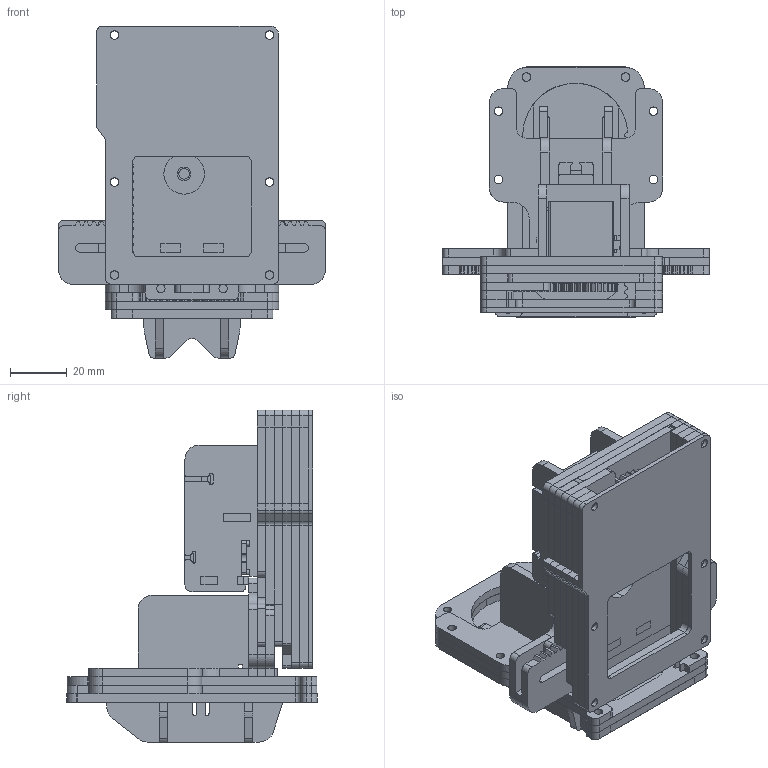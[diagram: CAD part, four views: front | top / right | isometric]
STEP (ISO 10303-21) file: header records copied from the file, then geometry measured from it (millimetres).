
FILE_DESCRIPTION (( 'STEP AP203' ), '1' );
FILE_NAME ('telaio_v7.STEP', '2013-12-19T00:21:21', ( 'Tiago' ), ( '' ), 'SwSTEP 2.0', 'SolidWorks 2013', '' );
FILE_SCHEMA (( 'CONFIG_CONTROL_DESIGN' ));
Length unit declared in the file: millimetre
Products named in the file (3): pen_holder; telaio_v7; telaio_v7_core_assembly_step-5
Assembly tree (2 placements, depth 2):
  telaio_v7
    telaio_v7_core_assembly_step-5
    pen_holder
Bounding box: 94 x 88.2 x 117.01 mm (x, y, z)
Volume: 165461.4 mm3; surface area: 139789.3 mm2
Topology: 44 solids, 44 shells, 2389 faces, 6867 edges, 4578 vertices
Faces by surface type: plane 1544, cylinder 554, bspline 291
Entity records: 80088 total; most frequent: CARTESIAN_POINT 17622, ORIENTED_EDGE 13734, DIRECTION 11599, EDGE_CURVE 6867, LINE 5177, VECTOR 5177, VERTEX_POINT 4578, AXIS2_PLACEMENT_3D 3211
